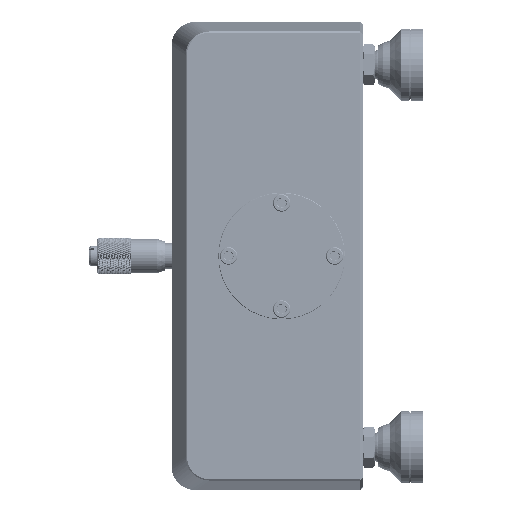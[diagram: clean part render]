
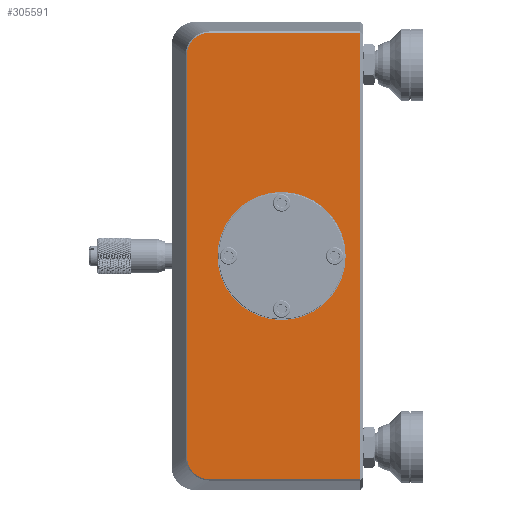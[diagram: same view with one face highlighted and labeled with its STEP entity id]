
A CAD part, left-side view. The second image highlights one B-rep face of the part: STEP entity #305591.
In plain terms, the highlighted planar face has unit normal (-1, 0, 0).
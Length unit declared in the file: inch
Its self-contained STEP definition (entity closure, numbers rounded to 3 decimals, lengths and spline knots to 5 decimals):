
#42902 = CARTESIAN_POINT ( 'NONE',  ( -3.25, 116.35084, 2.2453 ) ) ;
#44821 = VECTOR ( 'NONE', #119802, 39.37008 ) ;
#50497 = CARTESIAN_POINT ( 'NONE',  ( -3.25, 116.26823, 2.31222 ) ) ;
#54303 = CARTESIAN_POINT ( 'NONE',  ( -3.25, 116.22503, -2.32817 ) ) ;
#58102 = CARTESIAN_POINT ( 'NONE',  ( -3.25, 116.34111, -2.25706 ) ) ;
#60693 = EDGE_CURVE ( 'NONE', #631217, #507796, #178022, .T. ) ;
#60931 = DIRECTION ( 'NONE',  ( 0., 1., 0. ) ) ;
#75181 = CARTESIAN_POINT ( 'NONE',  ( -3.25, 116.16349, -2.3356 ) ) ;
#75352 = DIRECTION ( 'NONE',  ( 0., 0., 1. ) ) ;
#89500 = VECTOR ( 'NONE', #134988, 39.37008 ) ;
#101056 = CARTESIAN_POINT ( 'NONE',  ( -3.25, 116.31945, 2.27848 ) ) ;
#104864 = CARTESIAN_POINT ( 'NONE',  ( -3.25, 116.3752, 2.2064 ) ) ;
#119802 = DIRECTION ( 'NONE',  ( 0., 1., 0. ) ) ;
#130316 = CARTESIAN_POINT ( 'NONE',  ( -3.25, 116.16349, 2.3356 ) ) ;
#131452 = DIRECTION ( 'NONE',  ( 0., 0., -1. ) ) ;
#134988 = DIRECTION ( 'NONE',  ( 0., 0., 1. ) ) ;
#139684 = ORIENTED_EDGE ( 'NONE', *, *, #405217, .F. ) ;
#141045 = CIRCLE ( 'NONE', #438343, 0.67 ) ;
#148408 = VECTOR ( 'NONE', #131452, 39.37008 ) ;
#158493 = CARTESIAN_POINT ( 'NONE',  ( -3.25, 116.39885, 2.10278 ) ) ;
#166930 = CARTESIAN_POINT ( 'NONE',  ( -3.25, 116.19445, 2.33411 ) ) ;
#169755 = FACE_BOUND ( 'NONE', #518185, .T. ) ;
#170758 = CARTESIAN_POINT ( 'NONE',  ( -3.25, 116.38689, -2.17826 ) ) ;
#171590 = VERTEX_POINT ( 'NONE', #75181 ) ;
#174566 = CARTESIAN_POINT ( 'NONE',  ( -3.25, 116.28182, 2.30506 ) ) ;
#177387 = FACE_OUTER_BOUND ( 'NONE', #557936, .T. ) ;
#178022 = LINE ( 'NONE', #371600, #44821 ) ;
#185002 = CARTESIAN_POINT ( 'NONE',  ( -3.25, 115.55985, 0. ) ) ;
#202896 = VERTEX_POINT ( 'NONE', #362304 ) ;
#212582 = EDGE_CURVE ( 'NONE', #264926, #202896, #599159, .T. ) ;
#221286 = CARTESIAN_POINT ( 'NONE',  ( -3.25, 116.39885, 2.11818 ) ) ;
#221299 = CARTESIAN_POINT ( 'NONE',  ( -3.25, 116.23979, -2.32379 ) ) ;
#225104 = CARTESIAN_POINT ( 'NONE',  ( -3.25, 116.36797, 2.21984 ) ) ;
#229482 = VERTEX_POINT ( 'NONE', #541939 ) ;
#231138 = ORIENTED_EDGE ( 'NONE', *, *, #733621, .T. ) ;
#239355 = DIRECTION ( 'NONE',  ( 1., 0., 0. ) ) ;
#251336 = LINE ( 'NONE', #553799, #89500 ) ;
#263549 = CARTESIAN_POINT ( 'NONE',  ( -3.25, 114.58985, 2.3356 ) ) ;
#264926 = VERTEX_POINT ( 'NONE', #706797 ) ;
#267915 = VERTEX_POINT ( 'NONE', #708597 ) ;
#268563 = DIRECTION ( 'NONE',  ( 0., -1., 0. ) ) ;
#279452 = CARTESIAN_POINT ( 'NONE',  ( -3.25, 116.2398, 2.32378 ) ) ;
#287096 = CARTESIAN_POINT ( 'NONE',  ( -3.25, 116.39133, 2.16365 ) ) ;
#290911 = CARTESIAN_POINT ( 'NONE',  ( -3.25, 116.19448, -2.33412 ) ) ;
#294721 = CARTESIAN_POINT ( 'NONE',  ( -3.25, 116.26824, -2.31221 ) ) ;
#304513 = B_SPLINE_CURVE_WITH_KNOTS ( 'NONE', 3,
 ( #352913, #527465, #166930, #764118, #279452, #50497, #174566, #337689, #101056, #469273, #42902, #225104, #104864, #574291, #287096, #516059, #221286, #523663 ),
 .UNSPECIFIED., .F., .F.,
 ( 4, 2, 2, 2, 2, 2, 2, 2, 4 ),
 ( 0., 0.125, 0.25, 0.375, 0.5, 0.625, 0.75, 0.875, 1. ),
 .UNSPECIFIED. ) ;
#305591 = ADVANCED_FACE ( 'NONE', ( #169755, #177387 ), #650595, .F. ) ;
#336037 = ORIENTED_EDGE ( 'NONE', *, *, #417984, .T. ) ;
#337689 = CARTESIAN_POINT ( 'NONE',  ( -3.25, 116.30756, 2.28811 ) ) ;
#345533 = VECTOR ( 'NONE', #268563, 39.37008 ) ;
#352913 = CARTESIAN_POINT ( 'NONE',  ( -3.25, 116.16349, 2.3356 ) ) ;
#362304 = CARTESIAN_POINT ( 'NONE',  ( -3.25, 115.40985, 0.67 ) ) ;
#371600 = CARTESIAN_POINT ( 'NONE',  ( -3.25, 115.55985, 2.3356 ) ) ;
#405217 = EDGE_CURVE ( 'NONE', #202896, #264926, #141045, .T. ) ;
#407338 = CARTESIAN_POINT ( 'NONE',  ( -3.25, 116.36797, -2.21984 ) ) ;
#411151 = CARTESIAN_POINT ( 'NONE',  ( -3.25, 116.39734, -2.13341 ) ) ;
#414820 = CARTESIAN_POINT ( 'NONE',  ( -3.25, 116.39885, 0. ) ) ;
#417984 = EDGE_CURVE ( 'NONE', #507796, #476939, #304513, .T. ) ;
#422448 = LINE ( 'NONE', #414820, #148408 ) ;
#435533 = CARTESIAN_POINT ( 'NONE',  ( -3.25, 115.55985, -2.3356 ) ) ;
#437584 = ORIENTED_EDGE ( 'NONE', *, *, #570471, .T. ) ;
#438343 = AXIS2_PLACEMENT_3D ( 'NONE', #540963, #606815, #75352 ) ;
#442666 = ORIENTED_EDGE ( 'NONE', *, *, #546700, .T. ) ;
#443178 = LINE ( 'NONE', #435533, #345533 ) ;
#457875 = CARTESIAN_POINT ( 'NONE',  ( -3.25, 116.28182, -2.30506 ) ) ;
#469273 = CARTESIAN_POINT ( 'NONE',  ( -3.25, 116.34111, 2.25706 ) ) ;
#473116 = CARTESIAN_POINT ( 'NONE',  ( -3.25, 116.37521, -2.2064 ) ) ;
#476939 = VERTEX_POINT ( 'NONE', #158493 ) ;
#483744 = DIRECTION ( 'NONE',  ( -1., 0., 0. ) ) ;
#487430 = B_SPLINE_CURVE_WITH_KNOTS ( 'NONE', 3,
 ( #702063, #694457, #411151, #647779, #170758, #473116, #407338, #589528, #58102, #585718, #643966, #457875, #294721, #221299, #54303, #290911, #527478, #764130 ),
 .UNSPECIFIED., .F., .F.,
 ( 4, 2, 2, 2, 2, 2, 2, 2, 4 ),
 ( 0., 0.125, 0.25, 0.375, 0.5, 0.625, 0.75, 0.875, 1. ),
 .UNSPECIFIED. ) ;
#489464 = ORIENTED_EDGE ( 'NONE', *, *, #212582, .F. ) ;
#499030 = DIRECTION ( 'NONE',  ( 0., 0., 1. ) ) ;
#507796 = VERTEX_POINT ( 'NONE', #130316 ) ;
#516059 = CARTESIAN_POINT ( 'NONE',  ( -3.25, 116.39734, 2.13344 ) ) ;
#518185 = EDGE_LOOP ( 'NONE', ( #139684, #489464 ) ) ;
#523663 = CARTESIAN_POINT ( 'NONE',  ( -3.25, 116.39885, 2.10278 ) ) ;
#527465 = CARTESIAN_POINT ( 'NONE',  ( -3.25, 116.17901, 2.33561 ) ) ;
#527478 = CARTESIAN_POINT ( 'NONE',  ( -3.25, 116.17906, -2.33561 ) ) ;
#540963 = CARTESIAN_POINT ( 'NONE',  ( -3.25, 115.40985, 0. ) ) ;
#541939 = CARTESIAN_POINT ( 'NONE',  ( -3.25, 116.39885, -2.10278 ) ) ;
#545792 = CARTESIAN_POINT ( 'NONE',  ( -3.25, 115.40985, 0. ) ) ;
#546700 = EDGE_CURVE ( 'NONE', #476939, #229482, #422448, .T. ) ;
#553799 = CARTESIAN_POINT ( 'NONE',  ( -3.25, 114.58985, 0. ) ) ;
#557936 = EDGE_LOOP ( 'NONE', ( #231138, #437584, #622298, #336037, #442666, #653919 ) ) ;
#570471 = EDGE_CURVE ( 'NONE', #267915, #631217, #251336, .T. ) ;
#573365 = AXIS2_PLACEMENT_3D ( 'NONE', #185002, #239355, #60931 ) ;
#574291 = CARTESIAN_POINT ( 'NONE',  ( -3.25, 116.3869, 2.17825 ) ) ;
#585718 = CARTESIAN_POINT ( 'NONE',  ( -3.25, 116.31945, -2.27849 ) ) ;
#589528 = CARTESIAN_POINT ( 'NONE',  ( -3.25, 116.35084, -2.2453 ) ) ;
#599159 = CIRCLE ( 'NONE', #710471, 0.67 ) ;
#606815 = DIRECTION ( 'NONE',  ( -1., 0., 0. ) ) ;
#610801 = EDGE_CURVE ( 'NONE', #229482, #171590, #487430, .T. ) ;
#622298 = ORIENTED_EDGE ( 'NONE', *, *, #60693, .T. ) ;
#631217 = VERTEX_POINT ( 'NONE', #263549 ) ;
#643966 = CARTESIAN_POINT ( 'NONE',  ( -3.25, 116.30756, -2.28811 ) ) ;
#647779 = CARTESIAN_POINT ( 'NONE',  ( -3.25, 116.39133, -2.16362 ) ) ;
#650595 = PLANE ( 'NONE',  #573365 ) ;
#653919 = ORIENTED_EDGE ( 'NONE', *, *, #610801, .T. ) ;
#694457 = CARTESIAN_POINT ( 'NONE',  ( -3.25, 116.39885, -2.11813 ) ) ;
#702063 = CARTESIAN_POINT ( 'NONE',  ( -3.25, 116.39885, -2.10278 ) ) ;
#706797 = CARTESIAN_POINT ( 'NONE',  ( -3.25, 115.40985, -0.67 ) ) ;
#708597 = CARTESIAN_POINT ( 'NONE',  ( -3.25, 114.58985, -2.3356 ) ) ;
#710471 = AXIS2_PLACEMENT_3D ( 'NONE', #545792, #483744, #499030 ) ;
#733621 = EDGE_CURVE ( 'NONE', #171590, #267915, #443178, .T. ) ;
#764118 = CARTESIAN_POINT ( 'NONE',  ( -3.25, 116.225, 2.32817 ) ) ;
#764130 = CARTESIAN_POINT ( 'NONE',  ( -3.25, 116.16349, -2.3356 ) ) ;
